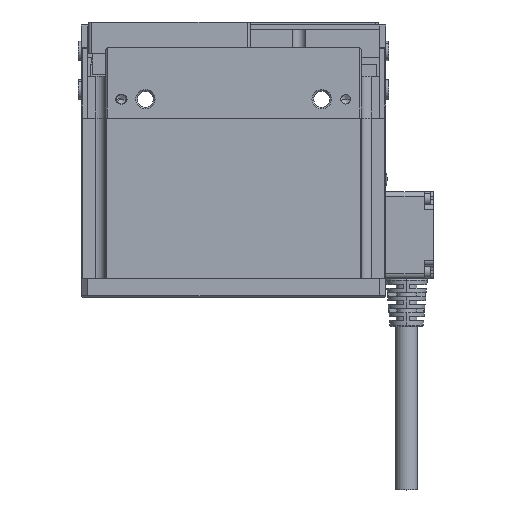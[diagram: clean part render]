
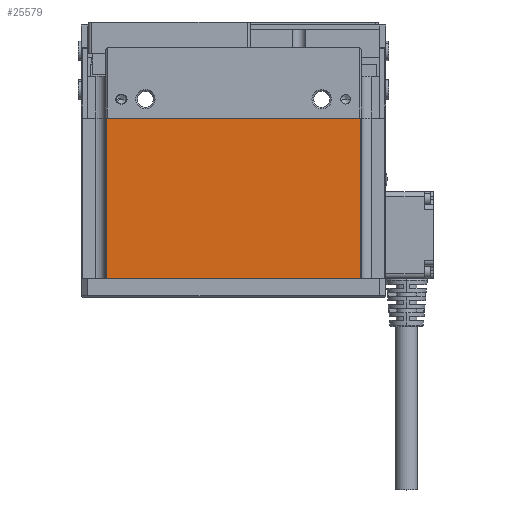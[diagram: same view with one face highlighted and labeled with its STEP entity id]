
A CAD part, top view. The second image highlights one B-rep face of the part: STEP entity #25579.
In plain terms, the highlighted planar face has unit normal (0, 0, 1) as drawn and (0, 1, 0) by its records, which use the part's own axes.
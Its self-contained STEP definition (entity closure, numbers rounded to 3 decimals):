
#271 = VERTEX_POINT ( 'NONE', #30041 ) ;
#3354 = DIRECTION ( 'NONE',  ( 0., 0., 1. ) ) ;
#5321 = ORIENTED_EDGE ( 'NONE', *, *, #31807, .F. ) ;
#5546 = DIRECTION ( 'NONE',  ( 0., 0., -1. ) ) ;
#6706 = LINE ( 'NONE', #35061, #13692 ) ;
#8596 = VECTOR ( 'NONE', #3354, 1000. ) ;
#8725 = CARTESIAN_POINT ( 'NONE',  ( -39.7, 30.5, -50. ) ) ;
#8826 = DIRECTION ( 'NONE',  ( 1., 0., 0. ) ) ;
#9384 = PLANE ( 'NONE',  #18535 ) ;
#12151 = FACE_OUTER_BOUND ( 'NONE', #24591, .T. ) ;
#12162 = VECTOR ( 'NONE', #5546, 1000. ) ;
#13692 = VECTOR ( 'NONE', #29322, 1000. ) ;
#13742 = CARTESIAN_POINT ( 'NONE',  ( -47.5, 30.5, 0. ) ) ;
#14246 = ORIENTED_EDGE ( 'NONE', *, *, #21730, .T. ) ;
#15060 = EDGE_CURVE ( 'NONE', #15138, #30628, #28762, .T. ) ;
#15138 = VERTEX_POINT ( 'NONE', #8725 ) ;
#15483 = EDGE_CURVE ( 'NONE', #271, #33176, #30958, .T. ) ;
#17828 = CARTESIAN_POINT ( 'NONE',  ( -39.7, 30.5, 0. ) ) ;
#18535 = AXIS2_PLACEMENT_3D ( 'NONE', #20704, #34409, #8826 ) ;
#20704 = CARTESIAN_POINT ( 'NONE',  ( -47.5, 30.5, -50. ) ) ;
#21730 = EDGE_CURVE ( 'NONE', #33176, #15138, #6706, .T. ) ;
#22255 = CARTESIAN_POINT ( 'NONE',  ( 39.7, 30.5, -50. ) ) ;
#22824 = LINE ( 'NONE', #13742, #31916 ) ;
#23661 = ORIENTED_EDGE ( 'NONE', *, *, #15483, .T. ) ;
#24531 = ORIENTED_EDGE ( 'NONE', *, *, #15060, .T. ) ;
#24591 = EDGE_LOOP ( 'NONE', ( #5321, #23661, #14246, #24531 ) ) ;
#25490 = CARTESIAN_POINT ( 'NONE',  ( 39.7, 30.5, -50. ) ) ;
#25579 = ADVANCED_FACE ( 'NONE', ( #12151 ), #9384, .T. ) ;
#25980 = DIRECTION ( 'NONE',  ( -1., 0., 0. ) ) ;
#28762 = LINE ( 'NONE', #17828, #8596 ) ;
#29322 = DIRECTION ( 'NONE',  ( -1., 0., 0. ) ) ;
#30041 = CARTESIAN_POINT ( 'NONE',  ( 39.7, 30.5, 0. ) ) ;
#30628 = VERTEX_POINT ( 'NONE', #33767 ) ;
#30958 = LINE ( 'NONE', #22255, #12162 ) ;
#31807 = EDGE_CURVE ( 'NONE', #271, #30628, #22824, .T. ) ;
#31916 = VECTOR ( 'NONE', #25980, 1000. ) ;
#33176 = VERTEX_POINT ( 'NONE', #25490 ) ;
#33767 = CARTESIAN_POINT ( 'NONE',  ( -39.7, 30.5, 0. ) ) ;
#34409 = DIRECTION ( 'NONE',  ( 0., 1., 0. ) ) ;
#35061 = CARTESIAN_POINT ( 'NONE',  ( -47.5, 30.5, -50. ) ) ;
